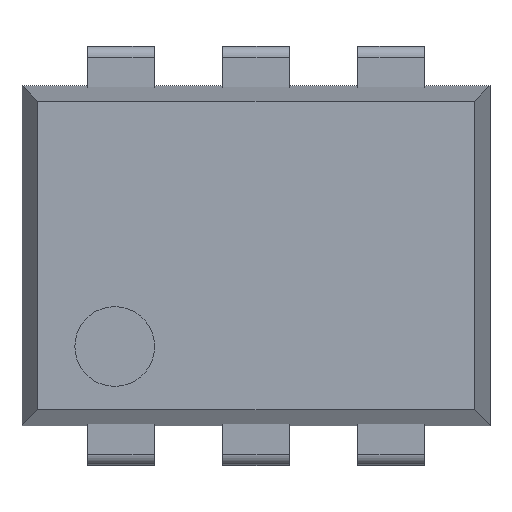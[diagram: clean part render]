
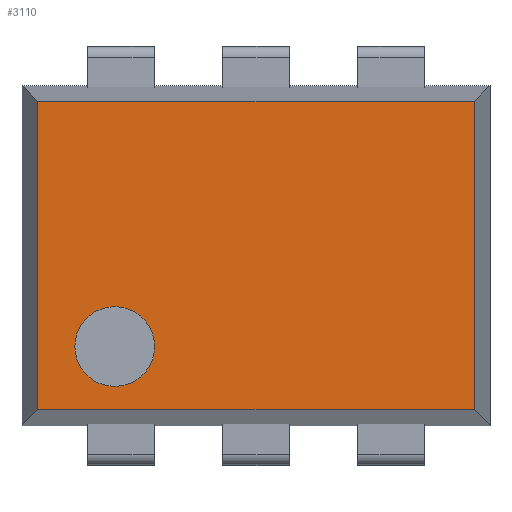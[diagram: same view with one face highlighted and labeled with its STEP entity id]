
A CAD part, top view. The second image highlights one B-rep face of the part: STEP entity #3110.
In plain terms, the highlighted planar face has unit normal (0, 0, 1).
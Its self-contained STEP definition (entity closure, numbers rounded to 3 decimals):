
#9 = EDGE_CURVE ( 'NONE', #3228, #2934, #133, .T. ) ;
#43 = CARTESIAN_POINT ( 'NONE',  ( -1.907, -1.709, 3.9 ) ) ;
#133 = LINE ( 'NONE', #2928, #920 ) ;
#284 = CARTESIAN_POINT ( 'NONE',  ( 0., 0., 3.9 ) ) ;
#407 = ORIENTED_EDGE ( 'NONE', *, *, #1058, .F. ) ;
#550 = CIRCLE ( 'NONE', #980, 0.75 ) ;
#607 = VERTEX_POINT ( 'NONE', #43 ) ;
#641 = VECTOR ( 'NONE', #3378, 1000. ) ;
#647 = CARTESIAN_POINT ( 'NONE',  ( -2.657, -1.709, 3.9 ) ) ;
#721 = CARTESIAN_POINT ( 'NONE',  ( 4.1, -2.9, 3.9 ) ) ;
#763 = LINE ( 'NONE', #2571, #641 ) ;
#792 = EDGE_LOOP ( 'NONE', ( #407, #1162 ) ) ;
#920 = VECTOR ( 'NONE', #1525, 1000. ) ;
#980 = AXIS2_PLACEMENT_3D ( 'NONE', #647, #1754, #3149 ) ;
#1053 = ORIENTED_EDGE ( 'NONE', *, *, #9, .T. ) ;
#1058 = EDGE_CURVE ( 'NONE', #607, #1738, #550, .T. ) ;
#1068 = CARTESIAN_POINT ( 'NONE',  ( -4.1, -3.2, 3.9 ) ) ;
#1099 = LINE ( 'NONE', #2487, #2610 ) ;
#1162 = ORIENTED_EDGE ( 'NONE', *, *, #1980, .F. ) ;
#1346 = DIRECTION ( 'NONE',  ( 1., 0., 0. ) ) ;
#1370 = ORIENTED_EDGE ( 'NONE', *, *, #2503, .F. ) ;
#1436 = CARTESIAN_POINT ( 'NONE',  ( -4.1, 2.9, 3.9 ) ) ;
#1525 = DIRECTION ( 'NONE',  ( 1., 0., 0. ) ) ;
#1546 = VECTOR ( 'NONE', #1879, 1000. ) ;
#1680 = PLANE ( 'NONE',  #1827 ) ;
#1693 = CARTESIAN_POINT ( 'NONE',  ( -4.1, -2.9, 3.9 ) ) ;
#1738 = VERTEX_POINT ( 'NONE', #3288 ) ;
#1748 = CIRCLE ( 'NONE', #1864, 0.75 ) ;
#1754 = DIRECTION ( 'NONE',  ( 0., 0., 1. ) ) ;
#1817 = VERTEX_POINT ( 'NONE', #1983 ) ;
#1827 = AXIS2_PLACEMENT_3D ( 'NONE', #284, #2493, #1940 ) ;
#1864 = AXIS2_PLACEMENT_3D ( 'NONE', #3514, #3270, #2720 ) ;
#1866 = VERTEX_POINT ( 'NONE', #1436 ) ;
#1879 = DIRECTION ( 'NONE',  ( 0., 1., 0. ) ) ;
#1940 = DIRECTION ( 'NONE',  ( 1., 0., 0. ) ) ;
#1980 = EDGE_CURVE ( 'NONE', #1738, #607, #1748, .T. ) ;
#1983 = CARTESIAN_POINT ( 'NONE',  ( 4.1, 2.9, 3.9 ) ) ;
#2143 = EDGE_CURVE ( 'NONE', #2934, #1817, #763, .T. ) ;
#2487 = CARTESIAN_POINT ( 'NONE',  ( -4.4, 2.9, 3.9 ) ) ;
#2493 = DIRECTION ( 'NONE',  ( 0., 0., 1. ) ) ;
#2503 = EDGE_CURVE ( 'NONE', #1866, #1817, #1099, .T. ) ;
#2571 = CARTESIAN_POINT ( 'NONE',  ( 4.1, -3.2, 3.9 ) ) ;
#2610 = VECTOR ( 'NONE', #1346, 1000. ) ;
#2666 = LINE ( 'NONE', #1068, #1546 ) ;
#2720 = DIRECTION ( 'NONE',  ( 1., 0., 0. ) ) ;
#2882 = FACE_BOUND ( 'NONE', #792, .T. ) ;
#2928 = CARTESIAN_POINT ( 'NONE',  ( -4.4, -2.9, 3.9 ) ) ;
#2934 = VERTEX_POINT ( 'NONE', #721 ) ;
#2986 = ORIENTED_EDGE ( 'NONE', *, *, #2143, .T. ) ;
#2995 = EDGE_CURVE ( 'NONE', #3228, #1866, #2666, .T. ) ;
#3110 = ADVANCED_FACE ( 'NONE', ( #2882, #3213 ), #1680, .T. ) ;
#3149 = DIRECTION ( 'NONE',  ( 1., 0., 0. ) ) ;
#3213 = FACE_OUTER_BOUND ( 'NONE', #3226, .T. ) ;
#3226 = EDGE_LOOP ( 'NONE', ( #1370, #3299, #1053, #2986 ) ) ;
#3228 = VERTEX_POINT ( 'NONE', #1693 ) ;
#3270 = DIRECTION ( 'NONE',  ( 0., 0., 1. ) ) ;
#3288 = CARTESIAN_POINT ( 'NONE',  ( -3.407, -1.709, 3.9 ) ) ;
#3299 = ORIENTED_EDGE ( 'NONE', *, *, #2995, .F. ) ;
#3378 = DIRECTION ( 'NONE',  ( 0., 1., 0. ) ) ;
#3514 = CARTESIAN_POINT ( 'NONE',  ( -2.657, -1.709, 3.9 ) ) ;
